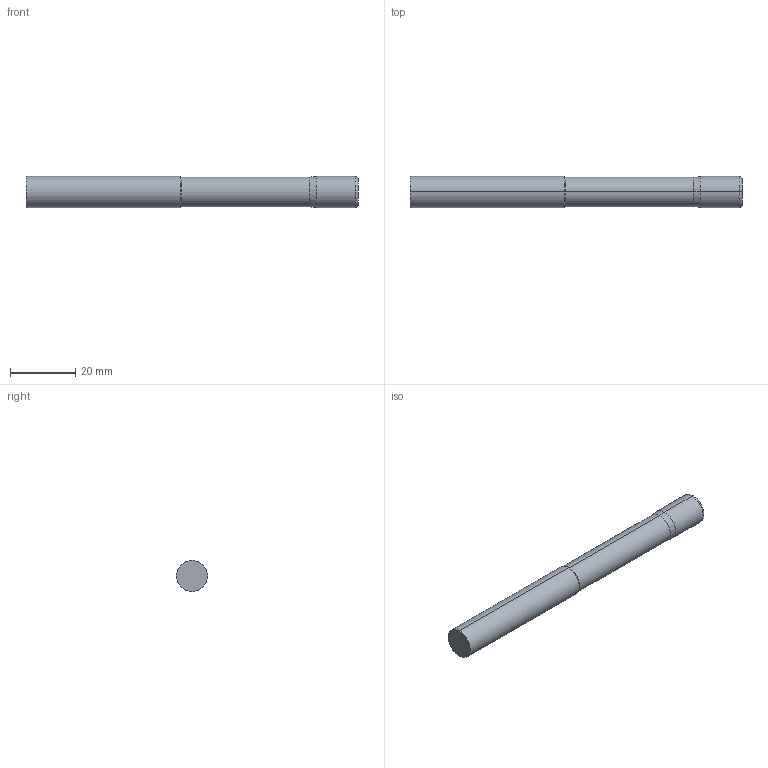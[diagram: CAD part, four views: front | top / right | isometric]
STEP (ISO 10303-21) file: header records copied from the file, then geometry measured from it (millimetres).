
FILE_DESCRIPTION (( 'STEP AP214' ), '1' );
FILE_NAME ('SSIRNM70375-030.STEP', '2025-05-30T14:50:16', ( '' ), ( '' ), 'SwSTEP 2.0', 'SolidWorks 2023', '' );
FILE_SCHEMA (( 'AUTOMOTIVE_DESIGN' ));
Length unit declared in the file: inch
Products named in the file (3): SSI7 Shank Only_SSIRNM70375-030; SSIRNM70375-030; SSI7 Cut Only_SSIRNM70375-030
Assembly tree (2 placements, depth 2):
  SSIRNM70375-030
    SSI7 Cut Only_SSIRNM70375-030
    SSI7 Shank Only_SSIRNM70375-030
Bounding box: 101.6 x 9.53 x 9.53 mm (x, y, z)
Volume: 6936.6 mm3; surface area: 3253.1 mm2
Topology: 2 solids, 2 shells, 16 faces, 28 edges, 16 vertices
Faces by surface type: cylinder 6, plane 4, cone 4, torus 2
Entity records: 484 total; most frequent: DIRECTION 88, CARTESIAN_POINT 65, ORIENTED_EDGE 56, AXIS2_PLACEMENT_3D 39, EDGE_CURVE 28, CIRCLE 18, VERTEX_POINT 16, ADVANCED_FACE 16
